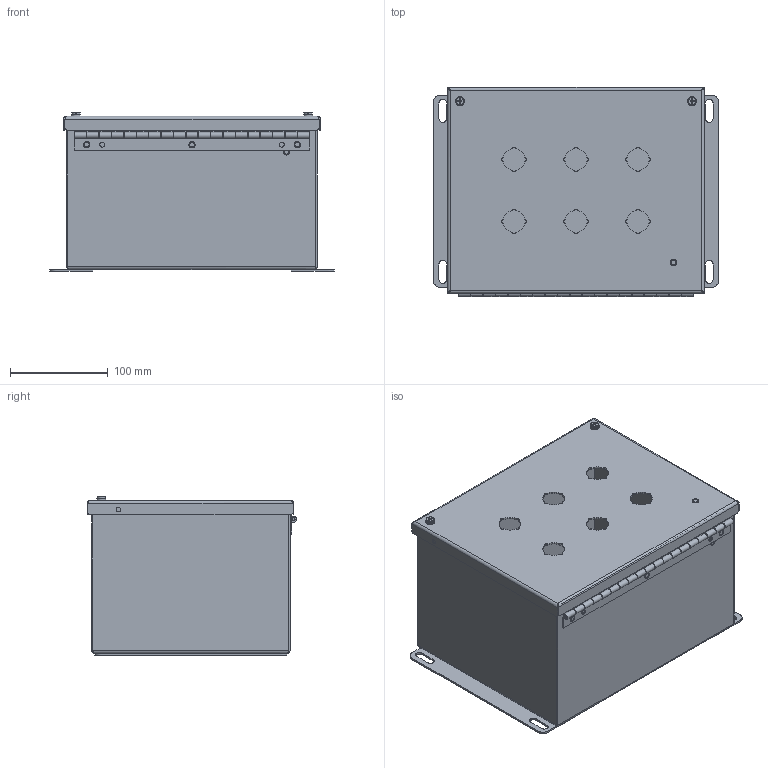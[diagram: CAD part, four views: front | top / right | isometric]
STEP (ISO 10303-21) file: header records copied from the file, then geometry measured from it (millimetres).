
FILE_DESCRIPTION((''),'2;1');
FILE_NAME('MODEL-371_ASM','2021-06-08T14:54:31',('mikek'),('SAGINAW CONTROL & ENGINEERING'),'CREO PARAMETRIC BY PTC INC, 2017260','CREO PARAMETRIC BY PTC INC, 2017260','');
FILE_SCHEMA(('AUTOMOTIVE_DESIGN { 1 0 10303 214 1 1 1 1 }'));
Length unit declared in the file: inch
Products named in the file (19): MODEL-371-BDY; MODEL-371-DR; 100063; 100009; 102162; 122255; MODEL-371-HNG-PN; MODEL-371-HNG-BX; MODEL-371-HNG-DR; 100062; MODEL-371-HNG_ASM; 100897; MODEL-371-GSKT; 100983; 102534; CH-ELJ_SUBPANEL; 102479; CH-ELJ_SUBPANEL-SUBASSEMBLY_ASM; MODEL-371_ASM
Assembly tree (32 placements, depth 3):
  MODEL-371_ASM
    MODEL-371-BDY
    MODEL-371-DR
    100063  x2
    100009  x4
    102162  x2
    122255
    MODEL-371-HNG_ASM
      MODEL-371-HNG-PN
      MODEL-371-HNG-BX
      MODEL-371-HNG-DR
      100062  x3
    100897  x3
    MODEL-371-GSKT
    100983  x2
    102534  x2
    CH-ELJ_SUBPANEL-SUBASSEMBLY_ASM
      CH-ELJ_SUBPANEL
      102479  x4
Bounding box: 292.1 x 214.32 x 162.83 mm (x, y, z)
Volume: 565142.4 mm3; surface area: 699139.1 mm2
Topology: 31 solids, 31 shells, 1379 faces, 3386 edges, 1974 vertices
Faces by surface type: plane 597, cylinder 436, bspline 178, torus 86, cone 50, sphere 32
Entity records: 45679 total; most frequent: CARTESIAN_POINT 11431, DIRECTION 4871, ORIENTED_EDGE 4600, EDGE_CURVE 2300, PRESENTATION_STYLE_ASSIGNMENT 2219, STYLED_ITEM 2219, CURVE_STYLE 2136, AXIS2_PLACEMENT_3D 1789
